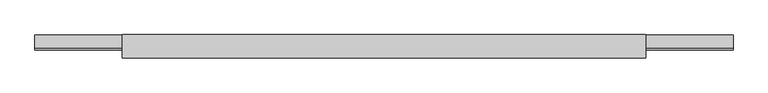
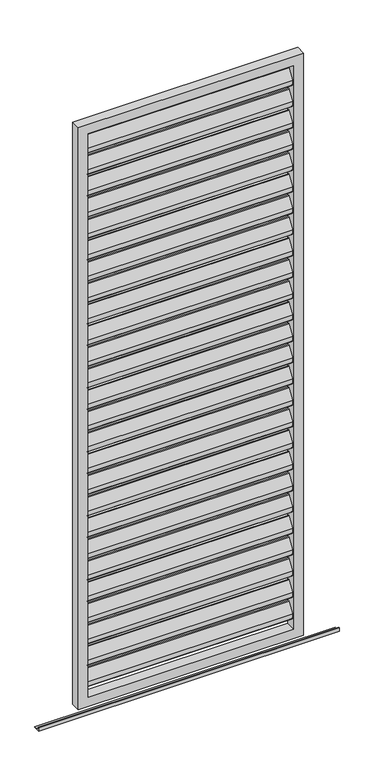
"""IFC4 building model written with IfcOpenShell, lengths in millimetres: proxy geometry."""

from ifc_helpers import new_model, si_unit, point, frame, frame_2d, origin, place, context, project, spatial, polyline, circle_curve, trimmed, segment, composite_curve, outline, extrude, source, transform, mapped, element, save


def generic_models_78f2e611(model_context):
    return source(origin(), model_context, "Body", "SweptSolid", [
        extrude(outline(composite_curve([segment(trimmed(circle_curve(frame_2d((12.6675921, 2432.6587719)), 3.0), [point((10.1515804, 2434.292689))], [point((15.6675921, 2432.6587719))], False, "CARTESIAN"), True, "CONTINUOUS"), segment(polyline([(15.6675921, 2432.6587719), (15.6675921, 2414.2979873)]), True, "CONTINUOUS"), segment(trimmed(circle_curve(frame_2d((12.6675921, 2414.2979873)), 3.0), [point((15.6675921, 2414.2979873))], [point((15.1836038, 2412.6640702))], False, "CARTESIAN"), True, "CONTINUOUS"), segment(polyline([(15.1836038, 2412.6640702), (-8.8163962, 2375.707311)]), True, "CONTINUOUS"), segment(trimmed(circle_curve(frame_2d((-11.3324079, 2377.3412281)), 3.0), [point((-8.8163962, 2375.707311))], [point((-14.3324079, 2377.3412281))], False, "CARTESIAN"), True, "CONTINUOUS"), segment(polyline([(-14.3324079, 2377.3412281), (-14.3324079, 2396.5906532), (10.1515804, 2434.292689)]), True, "CONTINUOUS")], self_intersect=False)), frame((-410.0, 0.0, 0.0), z_axis=(1.0, 0.0, 0.0), x_axis=(0.0, 1.0, 0.0)), (0.0, 0.0, 1.0), 820.0),
        extrude(outline(composite_curve([segment(trimmed(circle_curve(frame_2d((12.6675921, 2342.6587719)), 3.0), [point((10.1515804, 2344.292689))], [point((15.6675921, 2342.6587719))], False, "CARTESIAN"), True, "CONTINUOUS"), segment(polyline([(15.6675921, 2342.6587719), (15.6675921, 2324.2979873)]), True, "CONTINUOUS"), segment(trimmed(circle_curve(frame_2d((12.6675921, 2324.2979873)), 3.0), [point((15.6675921, 2324.2979873))], [point((15.1836038, 2322.6640702))], False, "CARTESIAN"), True, "CONTINUOUS"), segment(polyline([(15.1836038, 2322.6640702), (-8.8163962, 2285.707311)]), True, "CONTINUOUS"), segment(trimmed(circle_curve(frame_2d((-11.3324079, 2287.3412281)), 3.0), [point((-8.8163962, 2285.707311))], [point((-14.3324079, 2287.3412281))], False, "CARTESIAN"), True, "CONTINUOUS"), segment(polyline([(-14.3324079, 2287.3412281), (-14.3324079, 2306.5906532), (10.1515804, 2344.292689)]), True, "CONTINUOUS")], self_intersect=False)), frame((-410.0, 0.0, 0.0), z_axis=(1.0, 0.0, 0.0), x_axis=(0.0, 1.0, 0.0)), (0.0, 0.0, 1.0), 820.0),
        extrude(outline(composite_curve([segment(trimmed(circle_curve(frame_2d((12.6675921, 2252.6587719)), 3.0), [point((10.1515804, 2254.292689))], [point((15.6675921, 2252.6587719))], False, "CARTESIAN"), True, "CONTINUOUS"), segment(polyline([(15.6675921, 2252.6587719), (15.6675921, 2234.2979873)]), True, "CONTINUOUS"), segment(trimmed(circle_curve(frame_2d((12.6675921, 2234.2979873)), 3.0), [point((15.6675921, 2234.2979873))], [point((15.1836038, 2232.6640702))], False, "CARTESIAN"), True, "CONTINUOUS"), segment(polyline([(15.1836038, 2232.6640702), (-8.8163962, 2195.707311)]), True, "CONTINUOUS"), segment(trimmed(circle_curve(frame_2d((-11.3324079, 2197.3412281)), 3.0), [point((-8.8163962, 2195.707311))], [point((-14.3324079, 2197.3412281))], False, "CARTESIAN"), True, "CONTINUOUS"), segment(polyline([(-14.3324079, 2197.3412281), (-14.3324079, 2216.5906532), (10.1515804, 2254.292689)]), True, "CONTINUOUS")], self_intersect=False)), frame((-410.0, 0.0, 0.0), z_axis=(1.0, 0.0, 0.0), x_axis=(0.0, 1.0, 0.0)), (0.0, 0.0, 1.0), 820.0),
        extrude(outline(composite_curve([segment(trimmed(circle_curve(frame_2d((12.6675921, 2162.6587719)), 3.0), [point((10.1515804, 2164.292689))], [point((15.6675921, 2162.6587719))], False, "CARTESIAN"), True, "CONTINUOUS"), segment(polyline([(15.6675921, 2162.6587719), (15.6675921, 2144.2979873)]), True, "CONTINUOUS"), segment(trimmed(circle_curve(frame_2d((12.6675921, 2144.2979873)), 3.0), [point((15.6675921, 2144.2979873))], [point((15.1836038, 2142.6640702))], False, "CARTESIAN"), True, "CONTINUOUS"), segment(polyline([(15.1836038, 2142.6640702), (-8.8163962, 2105.707311)]), True, "CONTINUOUS"), segment(trimmed(circle_curve(frame_2d((-11.3324079, 2107.3412281)), 3.0), [point((-8.8163962, 2105.707311))], [point((-14.3324079, 2107.3412281))], False, "CARTESIAN"), True, "CONTINUOUS"), segment(polyline([(-14.3324079, 2107.3412281), (-14.3324079, 2126.5906532), (10.1515804, 2164.292689)]), True, "CONTINUOUS")], self_intersect=False)), frame((-410.0, 0.0, 0.0), z_axis=(1.0, 0.0, 0.0), x_axis=(0.0, 1.0, 0.0)), (0.0, 0.0, 1.0), 820.0),
        extrude(outline(composite_curve([segment(trimmed(circle_curve(frame_2d((12.6675921, 2072.6587719)), 3.0), [point((10.1515804, 2074.292689))], [point((15.6675921, 2072.6587719))], False, "CARTESIAN"), True, "CONTINUOUS"), segment(polyline([(15.6675921, 2072.6587719), (15.6675921, 2054.2979873)]), True, "CONTINUOUS"), segment(trimmed(circle_curve(frame_2d((12.6675921, 2054.2979873)), 3.0), [point((15.6675921, 2054.2979873))], [point((15.1836038, 2052.6640702))], False, "CARTESIAN"), True, "CONTINUOUS"), segment(polyline([(15.1836038, 2052.6640702), (-8.8163962, 2015.707311)]), True, "CONTINUOUS"), segment(trimmed(circle_curve(frame_2d((-11.3324079, 2017.3412281)), 3.0), [point((-8.8163962, 2015.707311))], [point((-14.3324079, 2017.3412281))], False, "CARTESIAN"), True, "CONTINUOUS"), segment(polyline([(-14.3324079, 2017.3412281), (-14.3324079, 2036.5906532), (10.1515804, 2074.292689)]), True, "CONTINUOUS")], self_intersect=False)), frame((-410.0, 0.0, 0.0), z_axis=(1.0, 0.0, 0.0), x_axis=(0.0, 1.0, 0.0)), (0.0, 0.0, 1.0), 820.0),
        extrude(outline(composite_curve([segment(trimmed(circle_curve(frame_2d((12.6675921, 1982.6587719)), 3.0), [point((10.1515804, 1984.292689))], [point((15.6675921, 1982.6587719))], False, "CARTESIAN"), True, "CONTINUOUS"), segment(polyline([(15.6675921, 1982.6587719), (15.6675921, 1964.2979873)]), True, "CONTINUOUS"), segment(trimmed(circle_curve(frame_2d((12.6675921, 1964.2979873)), 3.0), [point((15.6675921, 1964.2979873))], [point((15.1836038, 1962.6640702))], False, "CARTESIAN"), True, "CONTINUOUS"), segment(polyline([(15.1836038, 1962.6640702), (-8.8163962, 1925.707311)]), True, "CONTINUOUS"), segment(trimmed(circle_curve(frame_2d((-11.3324079, 1927.3412281)), 3.0), [point((-8.8163962, 1925.707311))], [point((-14.3324079, 1927.3412281))], False, "CARTESIAN"), True, "CONTINUOUS"), segment(polyline([(-14.3324079, 1927.3412281), (-14.3324079, 1946.5906532), (10.1515804, 1984.292689)]), True, "CONTINUOUS")], self_intersect=False)), frame((-410.0, 0.0, 0.0), z_axis=(1.0, 0.0, 0.0), x_axis=(0.0, 1.0, 0.0)), (0.0, 0.0, 1.0), 820.0),
        extrude(outline(composite_curve([segment(trimmed(circle_curve(frame_2d((12.6675921, 1892.6587719)), 3.0), [point((10.1515804, 1894.292689))], [point((15.6675921, 1892.6587719))], False, "CARTESIAN"), True, "CONTINUOUS"), segment(polyline([(15.6675921, 1892.6587719), (15.6675921, 1874.2979873)]), True, "CONTINUOUS"), segment(trimmed(circle_curve(frame_2d((12.6675921, 1874.2979873)), 3.0), [point((15.6675921, 1874.2979873))], [point((15.1836038, 1872.6640702))], False, "CARTESIAN"), True, "CONTINUOUS"), segment(polyline([(15.1836038, 1872.6640702), (-8.8163962, 1835.707311)]), True, "CONTINUOUS"), segment(trimmed(circle_curve(frame_2d((-11.3324079, 1837.3412281)), 3.0), [point((-8.8163962, 1835.707311))], [point((-14.3324079, 1837.3412281))], False, "CARTESIAN"), True, "CONTINUOUS"), segment(polyline([(-14.3324079, 1837.3412281), (-14.3324079, 1856.5906532), (10.1515804, 1894.292689)]), True, "CONTINUOUS")], self_intersect=False)), frame((-410.0, 0.0, 0.0), z_axis=(1.0, 0.0, 0.0), x_axis=(0.0, 1.0, 0.0)), (0.0, 0.0, 1.0), 820.0),
        extrude(outline(composite_curve([segment(trimmed(circle_curve(frame_2d((12.6675921, 1802.6587719)), 3.0), [point((10.1515804, 1804.292689))], [point((15.6675921, 1802.6587719))], False, "CARTESIAN"), True, "CONTINUOUS"), segment(polyline([(15.6675921, 1802.6587719), (15.6675921, 1784.2979873)]), True, "CONTINUOUS"), segment(trimmed(circle_curve(frame_2d((12.6675921, 1784.2979873)), 3.0), [point((15.6675921, 1784.2979873))], [point((15.1836038, 1782.6640702))], False, "CARTESIAN"), True, "CONTINUOUS"), segment(polyline([(15.1836038, 1782.6640702), (-8.8163962, 1745.707311)]), True, "CONTINUOUS"), segment(trimmed(circle_curve(frame_2d((-11.3324079, 1747.3412281)), 3.0), [point((-8.8163962, 1745.707311))], [point((-14.3324079, 1747.3412281))], False, "CARTESIAN"), True, "CONTINUOUS"), segment(polyline([(-14.3324079, 1747.3412281), (-14.3324079, 1766.5906532), (10.1515804, 1804.292689)]), True, "CONTINUOUS")], self_intersect=False)), frame((-410.0, 0.0, 0.0), z_axis=(1.0, 0.0, 0.0), x_axis=(0.0, 1.0, 0.0)), (0.0, 0.0, 1.0), 820.0),
        extrude(outline(composite_curve([segment(trimmed(circle_curve(frame_2d((12.6675921, 1712.6587719)), 3.0), [point((10.1515804, 1714.292689))], [point((15.6675921, 1712.6587719))], False, "CARTESIAN"), True, "CONTINUOUS"), segment(polyline([(15.6675921, 1712.6587719), (15.6675921, 1694.2979873)]), True, "CONTINUOUS"), segment(trimmed(circle_curve(frame_2d((12.6675921, 1694.2979873)), 3.0), [point((15.6675921, 1694.2979873))], [point((15.1836038, 1692.6640702))], False, "CARTESIAN"), True, "CONTINUOUS"), segment(polyline([(15.1836038, 1692.6640702), (-8.8163962, 1655.707311)]), True, "CONTINUOUS"), segment(trimmed(circle_curve(frame_2d((-11.3324079, 1657.3412281)), 3.0), [point((-8.8163962, 1655.707311))], [point((-14.3324079, 1657.3412281))], False, "CARTESIAN"), True, "CONTINUOUS"), segment(polyline([(-14.3324079, 1657.3412281), (-14.3324079, 1676.5906532), (10.1515804, 1714.292689)]), True, "CONTINUOUS")], self_intersect=False)), frame((-410.0, 0.0, 0.0), z_axis=(1.0, 0.0, 0.0), x_axis=(0.0, 1.0, 0.0)), (0.0, 0.0, 1.0), 820.0),
        extrude(outline(composite_curve([segment(trimmed(circle_curve(frame_2d((12.6675921, 1622.6587719)), 3.0), [point((10.1515804, 1624.292689))], [point((15.6675921, 1622.6587719))], False, "CARTESIAN"), True, "CONTINUOUS"), segment(polyline([(15.6675921, 1622.6587719), (15.6675921, 1604.2979873)]), True, "CONTINUOUS"), segment(trimmed(circle_curve(frame_2d((12.6675921, 1604.2979873)), 3.0), [point((15.6675921, 1604.2979873))], [point((15.1836038, 1602.6640702))], False, "CARTESIAN"), True, "CONTINUOUS"), segment(polyline([(15.1836038, 1602.6640702), (-8.8163962, 1565.707311)]), True, "CONTINUOUS"), segment(trimmed(circle_curve(frame_2d((-11.3324079, 1567.3412281)), 3.0), [point((-8.8163962, 1565.707311))], [point((-14.3324079, 1567.3412281))], False, "CARTESIAN"), True, "CONTINUOUS"), segment(polyline([(-14.3324079, 1567.3412281), (-14.3324079, 1586.5906532), (10.1515804, 1624.292689)]), True, "CONTINUOUS")], self_intersect=False)), frame((-410.0, 0.0, 0.0), z_axis=(1.0, 0.0, 0.0), x_axis=(0.0, 1.0, 0.0)), (0.0, 0.0, 1.0), 820.0),
        extrude(outline(composite_curve([segment(trimmed(circle_curve(frame_2d((12.6675921, 1532.6587719)), 3.0), [point((10.1515804, 1534.292689))], [point((15.6675921, 1532.6587719))], False, "CARTESIAN"), True, "CONTINUOUS"), segment(polyline([(15.6675921, 1532.6587719), (15.6675921, 1514.2979873)]), True, "CONTINUOUS"), segment(trimmed(circle_curve(frame_2d((12.6675921, 1514.2979873)), 3.0), [point((15.6675921, 1514.2979873))], [point((15.1836038, 1512.6640702))], False, "CARTESIAN"), True, "CONTINUOUS"), segment(polyline([(15.1836038, 1512.6640702), (-8.8163962, 1475.707311)]), True, "CONTINUOUS"), segment(trimmed(circle_curve(frame_2d((-11.3324079, 1477.3412281)), 3.0), [point((-8.8163962, 1475.707311))], [point((-14.3324079, 1477.3412281))], False, "CARTESIAN"), True, "CONTINUOUS"), segment(polyline([(-14.3324079, 1477.3412281), (-14.3324079, 1496.5906532), (10.1515804, 1534.292689)]), True, "CONTINUOUS")], self_intersect=False)), frame((-410.0, 0.0, 0.0), z_axis=(1.0, 0.0, 0.0), x_axis=(0.0, 1.0, 0.0)), (0.0, 0.0, 1.0), 820.0),
        extrude(outline(composite_curve([segment(trimmed(circle_curve(frame_2d((12.6675921, 1442.6587719)), 3.0), [point((10.1515804, 1444.292689))], [point((15.6675921, 1442.6587719))], False, "CARTESIAN"), True, "CONTINUOUS"), segment(polyline([(15.6675921, 1442.6587719), (15.6675921, 1424.2979873)]), True, "CONTINUOUS"), segment(trimmed(circle_curve(frame_2d((12.6675921, 1424.2979873)), 3.0), [point((15.6675921, 1424.2979873))], [point((15.1836038, 1422.6640702))], False, "CARTESIAN"), True, "CONTINUOUS"), segment(polyline([(15.1836038, 1422.6640702), (-8.8163962, 1385.707311)]), True, "CONTINUOUS"), segment(trimmed(circle_curve(frame_2d((-11.3324079, 1387.3412281)), 3.0), [point((-8.8163962, 1385.707311))], [point((-14.3324079, 1387.3412281))], False, "CARTESIAN"), True, "CONTINUOUS"), segment(polyline([(-14.3324079, 1387.3412281), (-14.3324079, 1406.5906532), (10.1515804, 1444.292689)]), True, "CONTINUOUS")], self_intersect=False)), frame((-410.0, 0.0, 0.0), z_axis=(1.0, 0.0, 0.0), x_axis=(0.0, 1.0, 0.0)), (0.0, 0.0, 1.0), 820.0),
        extrude(outline(composite_curve([segment(trimmed(circle_curve(frame_2d((12.6675921, 1352.6587719)), 3.0), [point((10.1515804, 1354.292689))], [point((15.6675921, 1352.6587719))], False, "CARTESIAN"), True, "CONTINUOUS"), segment(polyline([(15.6675921, 1352.6587719), (15.6675921, 1334.2979873)]), True, "CONTINUOUS"), segment(trimmed(circle_curve(frame_2d((12.6675921, 1334.2979873)), 3.0), [point((15.6675921, 1334.2979873))], [point((15.1836038, 1332.6640702))], False, "CARTESIAN"), True, "CONTINUOUS"), segment(polyline([(15.1836038, 1332.6640702), (-8.8163962, 1295.707311)]), True, "CONTINUOUS"), segment(trimmed(circle_curve(frame_2d((-11.3324079, 1297.3412281)), 3.0), [point((-8.8163962, 1295.707311))], [point((-14.3324079, 1297.3412281))], False, "CARTESIAN"), True, "CONTINUOUS"), segment(polyline([(-14.3324079, 1297.3412281), (-14.3324079, 1316.5906532), (10.1515804, 1354.292689)]), True, "CONTINUOUS")], self_intersect=False)), frame((-410.0, 0.0, 0.0), z_axis=(1.0, 0.0, 0.0), x_axis=(0.0, 1.0, 0.0)), (0.0, 0.0, 1.0), 820.0),
        extrude(outline(composite_curve([segment(trimmed(circle_curve(frame_2d((12.6675921, 1262.6587719)), 3.0), [point((10.1515804, 1264.292689))], [point((15.6675921, 1262.6587719))], False, "CARTESIAN"), True, "CONTINUOUS"), segment(polyline([(15.6675921, 1262.6587719), (15.6675921, 1244.2979873)]), True, "CONTINUOUS"), segment(trimmed(circle_curve(frame_2d((12.6675921, 1244.2979873)), 3.0), [point((15.6675921, 1244.2979873))], [point((15.1836038, 1242.6640702))], False, "CARTESIAN"), True, "CONTINUOUS"), segment(polyline([(15.1836038, 1242.6640702), (-8.8163962, 1205.707311)]), True, "CONTINUOUS"), segment(trimmed(circle_curve(frame_2d((-11.3324079, 1207.3412281)), 3.0), [point((-8.8163962, 1205.707311))], [point((-14.3324079, 1207.3412281))], False, "CARTESIAN"), True, "CONTINUOUS"), segment(polyline([(-14.3324079, 1207.3412281), (-14.3324079, 1226.5906532), (10.1515804, 1264.292689)]), True, "CONTINUOUS")], self_intersect=False)), frame((-410.0, 0.0, 0.0), z_axis=(1.0, 0.0, 0.0), x_axis=(0.0, 1.0, 0.0)), (0.0, 0.0, 1.0), 820.0),
        extrude(outline(composite_curve([segment(trimmed(circle_curve(frame_2d((12.6675921, 1172.6587719)), 3.0), [point((10.1515804, 1174.292689))], [point((15.6675921, 1172.6587719))], False, "CARTESIAN"), True, "CONTINUOUS"), segment(polyline([(15.6675921, 1172.6587719), (15.6675921, 1154.2979873)]), True, "CONTINUOUS"), segment(trimmed(circle_curve(frame_2d((12.6675921, 1154.2979873)), 3.0), [point((15.6675921, 1154.2979873))], [point((15.1836038, 1152.6640702))], False, "CARTESIAN"), True, "CONTINUOUS"), segment(polyline([(15.1836038, 1152.6640702), (-8.8163962, 1115.707311)]), True, "CONTINUOUS"), segment(trimmed(circle_curve(frame_2d((-11.3324079, 1117.3412281)), 3.0), [point((-8.8163962, 1115.707311))], [point((-14.3324079, 1117.3412281))], False, "CARTESIAN"), True, "CONTINUOUS"), segment(polyline([(-14.3324079, 1117.3412281), (-14.3324079, 1136.5906532), (10.1515804, 1174.292689)]), True, "CONTINUOUS")], self_intersect=False)), frame((-410.0, 0.0, 0.0), z_axis=(1.0, 0.0, 0.0), x_axis=(0.0, 1.0, 0.0)), (0.0, 0.0, 1.0), 820.0),
        extrude(outline(composite_curve([segment(trimmed(circle_curve(frame_2d((12.6675921, 1082.6587719)), 3.0), [point((10.1515804, 1084.292689))], [point((15.6675921, 1082.6587719))], False, "CARTESIAN"), True, "CONTINUOUS"), segment(polyline([(15.6675921, 1082.6587719), (15.6675921, 1064.2979873)]), True, "CONTINUOUS"), segment(trimmed(circle_curve(frame_2d((12.6675921, 1064.2979873)), 3.0), [point((15.6675921, 1064.2979873))], [point((15.1836038, 1062.6640702))], False, "CARTESIAN"), True, "CONTINUOUS"), segment(polyline([(15.1836038, 1062.6640702), (-8.8163962, 1025.707311)]), True, "CONTINUOUS"), segment(trimmed(circle_curve(frame_2d((-11.3324079, 1027.3412281)), 3.0), [point((-8.8163962, 1025.707311))], [point((-14.3324079, 1027.3412281))], False, "CARTESIAN"), True, "CONTINUOUS"), segment(polyline([(-14.3324079, 1027.3412281), (-14.3324079, 1046.5906532), (10.1515804, 1084.292689)]), True, "CONTINUOUS")], self_intersect=False)), frame((-410.0, 0.0, 0.0), z_axis=(1.0, 0.0, 0.0), x_axis=(0.0, 1.0, 0.0)), (0.0, 0.0, 1.0), 820.0),
        extrude(outline(composite_curve([segment(trimmed(circle_curve(frame_2d((12.6675921, 992.6587719)), 3.0), [point((10.1515804, 994.292689))], [point((15.6675921, 992.6587719))], False, "CARTESIAN"), True, "CONTINUOUS"), segment(polyline([(15.6675921, 992.6587719), (15.6675921, 974.2979873)]), True, "CONTINUOUS"), segment(trimmed(circle_curve(frame_2d((12.6675921, 974.2979873)), 3.0), [point((15.6675921, 974.2979873))], [point((15.1836038, 972.6640702))], False, "CARTESIAN"), True, "CONTINUOUS"), segment(polyline([(15.1836038, 972.6640702), (-8.8163962, 935.707311)]), True, "CONTINUOUS"), segment(trimmed(circle_curve(frame_2d((-11.3324079, 937.3412281)), 3.0), [point((-8.8163962, 935.707311))], [point((-14.3324079, 937.3412281))], False, "CARTESIAN"), True, "CONTINUOUS"), segment(polyline([(-14.3324079, 937.3412281), (-14.3324079, 956.5906532), (10.1515804, 994.292689)]), True, "CONTINUOUS")], self_intersect=False)), frame((-410.0, 0.0, 0.0), z_axis=(1.0, 0.0, 0.0), x_axis=(0.0, 1.0, 0.0)), (0.0, 0.0, 1.0), 820.0),
        extrude(outline(composite_curve([segment(trimmed(circle_curve(frame_2d((12.6675921, 902.6587719)), 3.0), [point((10.1515804, 904.292689))], [point((15.6675921, 902.6587719))], False, "CARTESIAN"), True, "CONTINUOUS"), segment(polyline([(15.6675921, 902.6587719), (15.6675921, 884.2979873)]), True, "CONTINUOUS"), segment(trimmed(circle_curve(frame_2d((12.6675921, 884.2979873)), 3.0), [point((15.6675921, 884.2979873))], [point((15.1836038, 882.6640702))], False, "CARTESIAN"), True, "CONTINUOUS"), segment(polyline([(15.1836038, 882.6640702), (-8.8163962, 845.707311)]), True, "CONTINUOUS"), segment(trimmed(circle_curve(frame_2d((-11.3324079, 847.3412281)), 3.0), [point((-8.8163962, 845.707311))], [point((-14.3324079, 847.3412281))], False, "CARTESIAN"), True, "CONTINUOUS"), segment(polyline([(-14.3324079, 847.3412281), (-14.3324079, 866.5906532), (10.1515804, 904.292689)]), True, "CONTINUOUS")], self_intersect=False)), frame((-410.0, 0.0, 0.0), z_axis=(1.0, 0.0, 0.0), x_axis=(0.0, 1.0, 0.0)), (0.0, 0.0, 1.0), 820.0),
        extrude(outline(composite_curve([segment(trimmed(circle_curve(frame_2d((12.6675921, 812.6587719)), 3.0), [point((10.1515804, 814.292689))], [point((15.6675921, 812.6587719))], False, "CARTESIAN"), True, "CONTINUOUS"), segment(polyline([(15.6675921, 812.6587719), (15.6675921, 794.2979873)]), True, "CONTINUOUS"), segment(trimmed(circle_curve(frame_2d((12.6675921, 794.2979873)), 3.0), [point((15.6675921, 794.2979873))], [point((15.1836038, 792.6640702))], False, "CARTESIAN"), True, "CONTINUOUS"), segment(polyline([(15.1836038, 792.6640702), (-8.8163962, 755.707311)]), True, "CONTINUOUS"), segment(trimmed(circle_curve(frame_2d((-11.3324079, 757.3412281)), 3.0), [point((-8.8163962, 755.707311))], [point((-14.3324079, 757.3412281))], False, "CARTESIAN"), True, "CONTINUOUS"), segment(polyline([(-14.3324079, 757.3412281), (-14.3324079, 776.5906532), (10.1515804, 814.292689)]), True, "CONTINUOUS")], self_intersect=False)), frame((-410.0, 0.0, 0.0), z_axis=(1.0, 0.0, 0.0), x_axis=(0.0, 1.0, 0.0)), (0.0, 0.0, 1.0), 820.0),
        extrude(outline(composite_curve([segment(trimmed(circle_curve(frame_2d((12.6675921, 722.6587719)), 3.0), [point((10.1515804, 724.292689))], [point((15.6675921, 722.6587719))], False, "CARTESIAN"), True, "CONTINUOUS"), segment(polyline([(15.6675921, 722.6587719), (15.6675921, 704.2979873)]), True, "CONTINUOUS"), segment(trimmed(circle_curve(frame_2d((12.6675921, 704.2979873)), 3.0), [point((15.6675921, 704.2979873))], [point((15.1836038, 702.6640702))], False, "CARTESIAN"), True, "CONTINUOUS"), segment(polyline([(15.1836038, 702.6640702), (-8.8163962, 665.707311)]), True, "CONTINUOUS"), segment(trimmed(circle_curve(frame_2d((-11.3324079, 667.3412281)), 3.0), [point((-8.8163962, 665.707311))], [point((-14.3324079, 667.3412281))], False, "CARTESIAN"), True, "CONTINUOUS"), segment(polyline([(-14.3324079, 667.3412281), (-14.3324079, 686.5906532), (10.1515804, 724.292689)]), True, "CONTINUOUS")], self_intersect=False)), frame((-410.0, 0.0, 0.0), z_axis=(1.0, 0.0, 0.0), x_axis=(0.0, 1.0, 0.0)), (0.0, 0.0, 1.0), 820.0),
        extrude(outline(composite_curve([segment(trimmed(circle_curve(frame_2d((12.6675921, 632.6587719)), 3.0), [point((10.1515804, 634.292689))], [point((15.6675921, 632.6587719))], False, "CARTESIAN"), True, "CONTINUOUS"), segment(polyline([(15.6675921, 632.6587719), (15.6675921, 614.2979873)]), True, "CONTINUOUS"), segment(trimmed(circle_curve(frame_2d((12.6675921, 614.2979873)), 3.0), [point((15.6675921, 614.2979873))], [point((15.1836038, 612.6640702))], False, "CARTESIAN"), True, "CONTINUOUS"), segment(polyline([(15.1836038, 612.6640702), (-8.8163962, 575.707311)]), True, "CONTINUOUS"), segment(trimmed(circle_curve(frame_2d((-11.3324079, 577.3412281)), 3.0), [point((-8.8163962, 575.707311))], [point((-14.3324079, 577.3412281))], False, "CARTESIAN"), True, "CONTINUOUS"), segment(polyline([(-14.3324079, 577.3412281), (-14.3324079, 596.5906532), (10.1515804, 634.292689)]), True, "CONTINUOUS")], self_intersect=False)), frame((-410.0, 0.0, 0.0), z_axis=(1.0, 0.0, 0.0), x_axis=(0.0, 1.0, 0.0)), (0.0, 0.0, 1.0), 820.0),
        extrude(outline(composite_curve([segment(trimmed(circle_curve(frame_2d((12.6675921, 542.6587719)), 3.0), [point((10.1515804, 544.292689))], [point((15.6675921, 542.6587719))], False, "CARTESIAN"), True, "CONTINUOUS"), segment(polyline([(15.6675921, 542.6587719), (15.6675921, 524.2979873)]), True, "CONTINUOUS"), segment(trimmed(circle_curve(frame_2d((12.6675921, 524.2979873)), 3.0), [point((15.6675921, 524.2979873))], [point((15.1836038, 522.6640702))], False, "CARTESIAN"), True, "CONTINUOUS"), segment(polyline([(15.1836038, 522.6640702), (-8.8163962, 485.707311)]), True, "CONTINUOUS"), segment(trimmed(circle_curve(frame_2d((-11.3324079, 487.3412281)), 3.0), [point((-8.8163962, 485.707311))], [point((-14.3324079, 487.3412281))], False, "CARTESIAN"), True, "CONTINUOUS"), segment(polyline([(-14.3324079, 487.3412281), (-14.3324079, 506.5906532), (10.1515804, 544.292689)]), True, "CONTINUOUS")], self_intersect=False)), frame((-410.0, 0.0, 0.0), z_axis=(1.0, 0.0, 0.0), x_axis=(0.0, 1.0, 0.0)), (0.0, 0.0, 1.0), 820.0),
        extrude(outline(composite_curve([segment(trimmed(circle_curve(frame_2d((12.6675921, 452.6587719)), 3.0), [point((10.1515804, 454.292689))], [point((15.6675921, 452.6587719))], False, "CARTESIAN"), True, "CONTINUOUS"), segment(polyline([(15.6675921, 452.6587719), (15.6675921, 434.2979873)]), True, "CONTINUOUS"), segment(trimmed(circle_curve(frame_2d((12.6675921, 434.2979873)), 3.0), [point((15.6675921, 434.2979873))], [point((15.1836038, 432.6640702))], False, "CARTESIAN"), True, "CONTINUOUS"), segment(polyline([(15.1836038, 432.6640702), (-8.8163962, 395.707311)]), True, "CONTINUOUS"), segment(trimmed(circle_curve(frame_2d((-11.3324079, 397.3412281)), 3.0), [point((-8.8163962, 395.707311))], [point((-14.3324079, 397.3412281))], False, "CARTESIAN"), True, "CONTINUOUS"), segment(polyline([(-14.3324079, 397.3412281), (-14.3324079, 416.5906532), (10.1515804, 454.292689)]), True, "CONTINUOUS")], self_intersect=False)), frame((-410.0, 0.0, 0.0), z_axis=(1.0, 0.0, 0.0), x_axis=(0.0, 1.0, 0.0)), (0.0, 0.0, 1.0), 820.0),
        extrude(outline(composite_curve([segment(trimmed(circle_curve(frame_2d((12.6675921, 362.6587719)), 3.0), [point((10.1515804, 364.292689))], [point((15.6675921, 362.6587719))], False, "CARTESIAN"), True, "CONTINUOUS"), segment(polyline([(15.6675921, 362.6587719), (15.6675921, 344.2979873)]), True, "CONTINUOUS"), segment(trimmed(circle_curve(frame_2d((12.6675921, 344.2979873)), 3.0), [point((15.6675921, 344.2979873))], [point((15.1836038, 342.6640702))], False, "CARTESIAN"), True, "CONTINUOUS"), segment(polyline([(15.1836038, 342.6640702), (-8.8163962, 305.707311)]), True, "CONTINUOUS"), segment(trimmed(circle_curve(frame_2d((-11.3324079, 307.3412281)), 3.0), [point((-8.8163962, 305.707311))], [point((-14.3324079, 307.3412281))], False, "CARTESIAN"), True, "CONTINUOUS"), segment(polyline([(-14.3324079, 307.3412281), (-14.3324079, 326.5906532), (10.1515804, 364.292689)]), True, "CONTINUOUS")], self_intersect=False)), frame((-410.0, 0.0, 0.0), z_axis=(1.0, 0.0, 0.0), x_axis=(0.0, 1.0, 0.0)), (0.0, 0.0, 1.0), 820.0),
        extrude(outline(composite_curve([segment(trimmed(circle_curve(frame_2d((12.6675921, 272.6587719)), 3.0), [point((10.1515804, 274.292689))], [point((15.6675921, 272.6587719))], False, "CARTESIAN"), True, "CONTINUOUS"), segment(polyline([(15.6675921, 272.6587719), (15.6675921, 254.2979873)]), True, "CONTINUOUS"), segment(trimmed(circle_curve(frame_2d((12.6675921, 254.2979873)), 3.0), [point((15.6675921, 254.2979873))], [point((15.1836038, 252.6640702))], False, "CARTESIAN"), True, "CONTINUOUS"), segment(polyline([(15.1836038, 252.6640702), (-8.8163962, 215.707311)]), True, "CONTINUOUS"), segment(trimmed(circle_curve(frame_2d((-11.3324079, 217.3412281)), 3.0), [point((-8.8163962, 215.707311))], [point((-14.3324079, 217.3412281))], False, "CARTESIAN"), True, "CONTINUOUS"), segment(polyline([(-14.3324079, 217.3412281), (-14.3324079, 236.5906532), (10.1515804, 274.292689)]), True, "CONTINUOUS")], self_intersect=False)), frame((-410.0, 0.0, 0.0), z_axis=(1.0, 0.0, 0.0), x_axis=(0.0, 1.0, 0.0)), (0.0, 0.0, 1.0), 820.0),
        extrude(outline(composite_curve([segment(trimmed(circle_curve(frame_2d((12.6675921, 182.6587719)), 3.0), [point((10.1515804, 184.292689))], [point((15.6675921, 182.6587719))], False, "CARTESIAN"), True, "CONTINUOUS"), segment(polyline([(15.6675921, 182.6587719), (15.6675921, 164.2979873)]), True, "CONTINUOUS"), segment(trimmed(circle_curve(frame_2d((12.6675921, 164.2979873)), 3.0), [point((15.6675921, 164.2979873))], [point((15.1836038, 162.6640702))], False, "CARTESIAN"), True, "CONTINUOUS"), segment(polyline([(15.1836038, 162.6640702), (-8.8163962, 125.707311)]), True, "CONTINUOUS"), segment(trimmed(circle_curve(frame_2d((-11.3324079, 127.3412281)), 3.0), [point((-8.8163962, 125.707311))], [point((-14.3324079, 127.3412281))], False, "CARTESIAN"), True, "CONTINUOUS"), segment(polyline([(-14.3324079, 127.3412281), (-14.3324079, 146.5906532), (10.1515804, 184.292689)]), True, "CONTINUOUS")], self_intersect=False)), frame((-410.0, 0.0, 0.0), z_axis=(1.0, 0.0, 0.0), x_axis=(0.0, 1.0, 0.0)), (0.0, 0.0, 1.0), 820.0),
        extrude(outline(polyline([(-6.0, 15.0), (-3.0, 15.0), (-3.0, 3.0), (20.0, 3.0), (20.0, 0.0), (-6.0, 0.0), (-6.0, 15.0)])), frame((-600.0, 0.0, 0.0), z_axis=(1.0, 0.0, 0.0), x_axis=(0.0, 1.0, 0.0)), (0.0, 0.0, 1.0), 1200.0),
        extrude(outline(polyline([(2500.0, -450.0), (45.0, -450.0), (45.0, 450.0), (2500.0, 450.0), (2500.0, -450.0)]), holes=[polyline([(2460.0, 410.0), (85.0, 410.0), (85.0, -410.0), (2460.0, -410.0), (2460.0, 410.0)])]), frame((0.0, -20.0, 0.0), z_axis=(0.0, 1.0, 0.0), x_axis=(0.0, 0.0, 1.0)), (0.0, 0.0, 1.0), 40.0),
    ])


if __name__ == "__main__":
    model = new_model("IFC4")
    model_context = context("Model", 3, world=origin())
    ifc_project = project(units=[si_unit("LENGTHUNIT", "METRE", prefix="MILLI")], contexts=[model_context])
    site = spatial("IfcSite", under=ifc_project)
    building = spatial("IfcBuilding", under=site)
    placement = place(None, origin())
    generic_models_shape = generic_models_78f2e611(model_context)
    element("IfcBuildingElementProxy", 1, Name="Generic Models", at=placement, inside=building, context=model_context, shape_type="MappedRepresentation", body=[
        mapped(generic_models_shape, transform((0.0, 0.0, 0.0), x_axis=(1.0, 0.0, 0.0), y_axis=(0.0, 1.0, 0.0), z_axis=(0.0, 0.0, 1.0))),
    ])
    save(model, "model.ifc")
